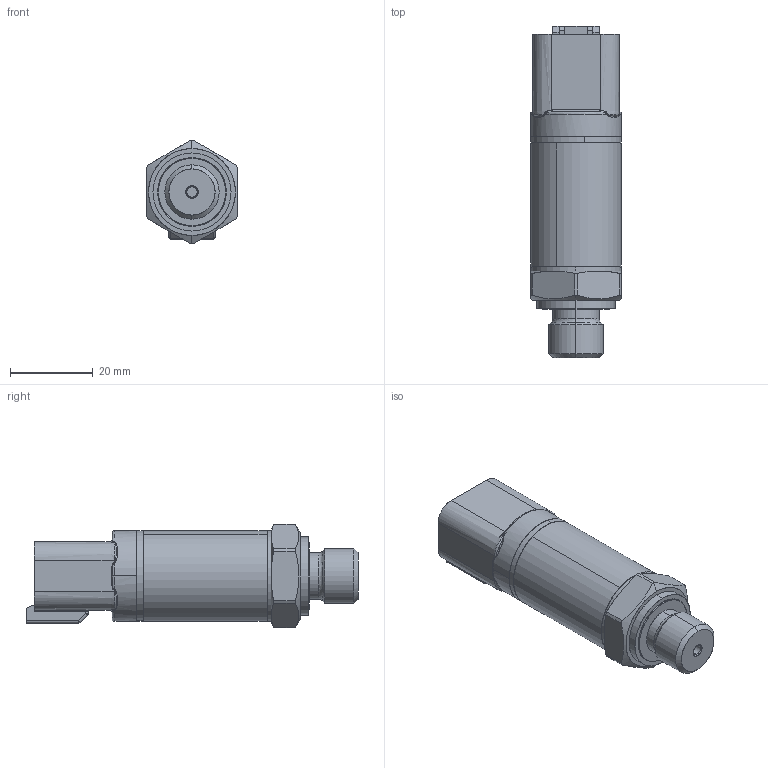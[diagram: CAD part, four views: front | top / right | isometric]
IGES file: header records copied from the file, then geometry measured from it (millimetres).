
Start section: SolidWorks IGES file using analytic representation for surfaces
Global section: file name: \\srv4gefran\dir-cat\Disegni Catalogo\Pressione\KH\3D\Solidworks 2015\KH_Deutsch 4poli.IGS; native system: SolidWorks 2015; preprocessor: SolidWorks 2015; author: Loda-w1; date: 160303.163955; units: millimetre
Bounding box: 22 x 80.32 x 25 mm (x, y, z)
Surface area: 13457.9 mm2 (no closed solid volume)
Topology: 0 solids, 0 shells, 408 faces, 5824 edges, 6746 vertices
Faces by surface type: revolution 215, bspline 193
